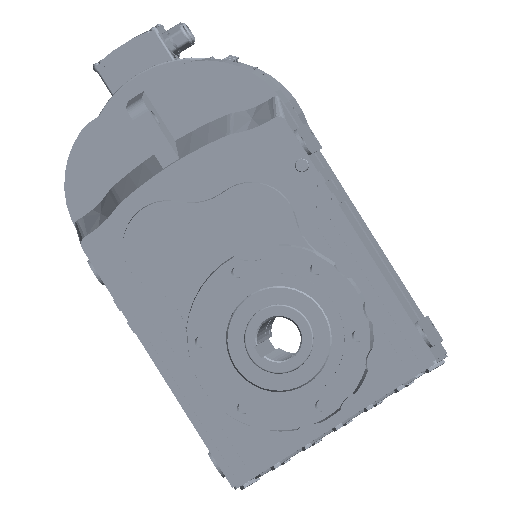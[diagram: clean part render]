
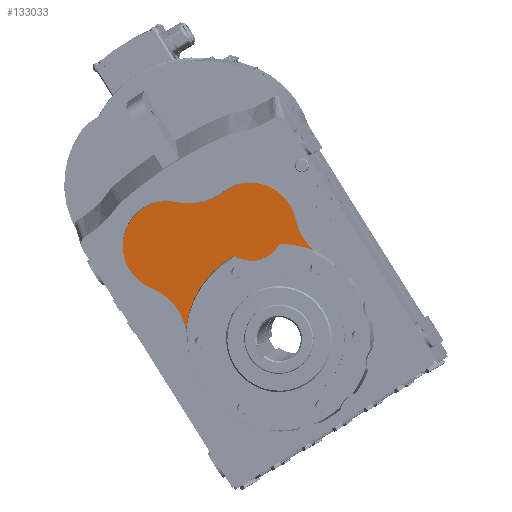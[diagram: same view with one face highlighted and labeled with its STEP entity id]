
A CAD part, top view. The second image highlights one B-rep face of the part: STEP entity #133033.
In plain terms, the highlighted planar face has unit normal (-0.082, -0.048, 0.996) as drawn and (0, 0, 1) by its records, which use the part's own axes.
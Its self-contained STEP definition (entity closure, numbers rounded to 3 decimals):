
#13178 = EDGE_LOOP ( 'NONE', ( #285915, #286104, #286084, #286221, #286078, #285978, #286209, #285811, #285904, #286361 ) ) ;
#22797 = DIRECTION ( 'NONE',  ( 0., 0., -1. ) ) ;
#22832 = CARTESIAN_POINT ( 'NONE',  ( -62.819, 188.07, 198.5 ) ) ;
#22852 = CARTESIAN_POINT ( 'NONE',  ( 35.119, 288.11, 198.5 ) ) ;
#22876 = DIRECTION ( 'NONE',  ( 0., -1., 0. ) ) ;
#23093 = DIRECTION ( 'NONE',  ( 0., 1., 0. ) ) ;
#23135 = DIRECTION ( 'NONE',  ( 0., 0., -1. ) ) ;
#29420 = CIRCLE ( 'NONE', #36794, 78.371 ) ;
#29430 = CIRCLE ( 'NONE', #36737, 78.371 ) ;
#29444 = CIRCLE ( 'NONE', #36569, 45. ) ;
#29580 = CIRCLE ( 'NONE', #36709, 61.629 ) ;
#29591 = CIRCLE ( 'NONE', #36913, 129.152 ) ;
#29649 = CIRCLE ( 'NONE', #36831, 78.371 ) ;
#29657 = CIRCLE ( 'NONE', #36960, 61.629 ) ;
#29889 = CIRCLE ( 'NONE', #37045, 129.152 ) ;
#36569 = AXIS2_PLACEMENT_3D ( 'NONE', #44533, #44341, #44400 ) ;
#36709 = AXIS2_PLACEMENT_3D ( 'NONE', #45511, #45533, #45556 ) ;
#36737 = AXIS2_PLACEMENT_3D ( 'NONE', #44862, #44868, #45124 ) ;
#36794 = AXIS2_PLACEMENT_3D ( 'NONE', #44761, #44652, #44555 ) ;
#36831 = AXIS2_PLACEMENT_3D ( 'NONE', #45738, #45699, #45560 ) ;
#36913 = AXIS2_PLACEMENT_3D ( 'NONE', #46023, #46035, #45965 ) ;
#36960 = AXIS2_PLACEMENT_3D ( 'NONE', #46080, #46059, #45994 ) ;
#37045 = AXIS2_PLACEMENT_3D ( 'NONE', #46300, #46236, #46239 ) ;
#44341 = DIRECTION ( 'NONE',  ( 0., 0., 1. ) ) ;
#44400 = DIRECTION ( 'NONE',  ( -1., 0., 0. ) ) ;
#44533 = CARTESIAN_POINT ( 'NONE',  ( 47.338, 148.644, 198.5 ) ) ;
#44555 = DIRECTION ( 'NONE',  ( 0., -1., 0. ) ) ;
#44652 = DIRECTION ( 'NONE',  ( 0., 0., -1. ) ) ;
#44761 = CARTESIAN_POINT ( 'NONE',  ( -175.818, 105.418, 198.5 ) ) ;
#44862 = CARTESIAN_POINT ( 'NONE',  ( 178.75, 100.366, 198.5 ) ) ;
#44868 = DIRECTION ( 'NONE',  ( 0., 0., -1. ) ) ;
#45124 = DIRECTION ( 'NONE',  ( 0., -1., 0. ) ) ;
#45511 = CARTESIAN_POINT ( 'NONE',  ( 47.338, 148.644, 198.5 ) ) ;
#45533 = DIRECTION ( 'NONE',  ( 0., 0., -1. ) ) ;
#45556 = DIRECTION ( 'NONE',  ( -1., 0., 0. ) ) ;
#45560 = DIRECTION ( 'NONE',  ( 0., -1., 0. ) ) ;
#45699 = DIRECTION ( 'NONE',  ( 0., 0., -1. ) ) ;
#45738 = CARTESIAN_POINT ( 'NONE',  ( 35.119, 288.11, 198.5 ) ) ;
#45965 = DIRECTION ( 'NONE',  ( -1., 0., 0. ) ) ;
#45994 = DIRECTION ( 'NONE',  ( 0., 1., 0. ) ) ;
#46023 = CARTESIAN_POINT ( 'NONE',  ( 0., 0., 198.5 ) ) ;
#46035 = DIRECTION ( 'NONE',  ( 0., 0., -1. ) ) ;
#46059 = DIRECTION ( 'NONE',  ( 0., 0., -1. ) ) ;
#46080 = CARTESIAN_POINT ( 'NONE',  ( -62.819, 188.07, 198.5 ) ) ;
#46236 = DIRECTION ( 'NONE',  ( 0., 0., 1. ) ) ;
#46239 = DIRECTION ( 'NONE',  ( -1., 0., 0. ) ) ;
#46300 = CARTESIAN_POINT ( 'NONE',  ( 0., 0., 198.5 ) ) ;
#69170 = AXIS2_PLACEMENT_3D ( 'NONE', #128523, #128566, #128703 ) ;
#84218 = AXIS2_PLACEMENT_3D ( 'NONE', #22832, #23135, #23093 ) ;
#84389 = AXIS2_PLACEMENT_3D ( 'NONE', #22852, #22797, #22876 ) ;
#115305 = FACE_OUTER_BOUND ( 'NONE', #13178, .T. ) ;
#128523 = CARTESIAN_POINT ( 'NONE',  ( 41.229, 218.377, 198.5 ) ) ;
#128547 = PLANE ( 'NONE',  #69170 ) ;
#128566 = DIRECTION ( 'NONE',  ( 0., 0., 1. ) ) ;
#128703 = DIRECTION ( 'NONE',  ( 1., 0., 0. ) ) ;
#133033 = ADVANCED_FACE ( 'NONE', ( #115305 ), #128547, .T. ) ;
#153358 = CARTESIAN_POINT ( 'NONE',  ( -112.562, 151.686, 198.5 ) ) ;
#153372 = CARTESIAN_POINT ( 'NONE',  ( 35.119, 209.739, 198.5 ) ) ;
#153457 = CARTESIAN_POINT ( 'NONE',  ( -62.819, 249.699, 198.5 ) ) ;
#153504 = CARTESIAN_POINT ( 'NONE',  ( 41.959, 210.038, 198.5 ) ) ;
#206958 = VERTEX_POINT ( 'NONE', #153504 ) ;
#207142 = VERTEX_POINT ( 'NONE', #153358 ) ;
#207227 = VERTEX_POINT ( 'NONE', #153372 ) ;
#207278 = VERTEX_POINT ( 'NONE', #153457 ) ;
#219885 = EDGE_CURVE ( 'NONE', #206958, #207227, #292724, .T. ) ;
#219899 = EDGE_CURVE ( 'NONE', #207142, #207278, #292708, .T. ) ;
#220715 = EDGE_CURVE ( 'NONE', #225757, #225774, #29444, .T. ) ;
#220728 = EDGE_CURVE ( 'NONE', #207142, #225759, #29420, .T. ) ;
#220741 = EDGE_CURVE ( 'NONE', #225865, #225833, #29430, .T. ) ;
#220769 = EDGE_CURVE ( 'NONE', #206958, #225833, #29580, .T. ) ;
#220771 = EDGE_CURVE ( 'NONE', #207227, #225841, #29649, .T. ) ;
#220796 = EDGE_CURVE ( 'NONE', #225774, #225865, #29591, .T. ) ;
#220803 = EDGE_CURVE ( 'NONE', #207278, #225841, #29657, .T. ) ;
#220826 = EDGE_CURVE ( 'NONE', #225757, #225759, #29889, .T. ) ;
#225757 = VERTEX_POINT ( 'NONE', #227534 ) ;
#225759 = VERTEX_POINT ( 'NONE', #227535 ) ;
#225774 = VERTEX_POINT ( 'NONE', #227502 ) ;
#225833 = VERTEX_POINT ( 'NONE', #227638 ) ;
#225841 = VERTEX_POINT ( 'NONE', #227611 ) ;
#225865 = VERTEX_POINT ( 'NONE', #227648 ) ;
#227502 = CARTESIAN_POINT ( 'NONE',  ( 68.978, 109.189, 198.5 ) ) ;
#227534 = CARTESIAN_POINT ( 'NONE',  ( 6.867, 128.969, 198.5 ) ) ;
#227535 = CARTESIAN_POINT ( 'NONE',  ( -101.917, 79.328, 198.5 ) ) ;
#227611 = CARTESIAN_POINT ( 'NONE',  ( -19.706, 232.108, 198.5 ) ) ;
#227638 = CARTESIAN_POINT ( 'NONE',  ( 105.187, 127.392, 198.5 ) ) ;
#227648 = CARTESIAN_POINT ( 'NONE',  ( 104.136, 76.392, 198.5 ) ) ;
#285811 = ORIENTED_EDGE ( 'NONE', *, *, #220771, .T. ) ;
#285904 = ORIENTED_EDGE ( 'NONE', *, *, #220803, .F. ) ;
#285915 = ORIENTED_EDGE ( 'NONE', *, *, #220728, .T. ) ;
#285978 = ORIENTED_EDGE ( 'NONE', *, *, #220769, .F. ) ;
#286078 = ORIENTED_EDGE ( 'NONE', *, *, #220741, .T. ) ;
#286084 = ORIENTED_EDGE ( 'NONE', *, *, #220715, .T. ) ;
#286104 = ORIENTED_EDGE ( 'NONE', *, *, #220826, .F. ) ;
#286209 = ORIENTED_EDGE ( 'NONE', *, *, #219885, .T. ) ;
#286221 = ORIENTED_EDGE ( 'NONE', *, *, #220796, .T. ) ;
#286361 = ORIENTED_EDGE ( 'NONE', *, *, #219899, .F. ) ;
#292708 = CIRCLE ( 'NONE', #84218, 61.629 ) ;
#292724 = CIRCLE ( 'NONE', #84389, 78.371 ) ;
